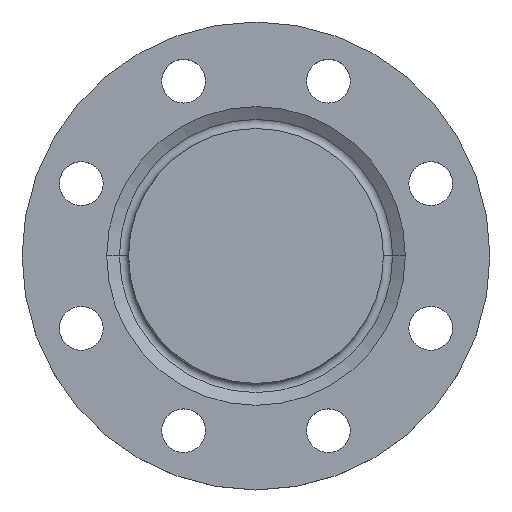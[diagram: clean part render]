
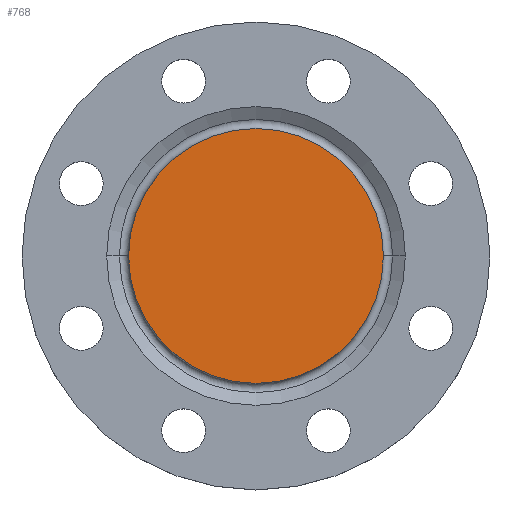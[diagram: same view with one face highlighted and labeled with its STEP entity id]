
A CAD part, top view. The second image highlights one B-rep face of the part: STEP entity #768.
In plain terms, the highlighted planar face has unit normal (0, 0, 1).
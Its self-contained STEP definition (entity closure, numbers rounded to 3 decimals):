
#141 = DIRECTION ( 'NONE',  ( -1., 0., 0. ) ) ;
#186 = EDGE_CURVE ( 'NONE', #883, #1055, #923, .T. ) ;
#283 = DIRECTION ( 'NONE',  ( 0., 0., 1. ) ) ;
#324 = AXIS2_PLACEMENT_3D ( 'NONE', #775, #1131, #338 ) ;
#338 = DIRECTION ( 'NONE',  ( -1., 0., 0. ) ) ;
#363 = FACE_OUTER_BOUND ( 'NONE', #548, .T. ) ;
#412 = AXIS2_PLACEMENT_3D ( 'NONE', #670, #938, #141 ) ;
#464 = ORIENTED_EDGE ( 'NONE', *, *, #186, .F. ) ;
#548 = EDGE_LOOP ( 'NONE', ( #464, #675 ) ) ;
#627 = DIRECTION ( 'NONE',  ( 1., 0., 0. ) ) ;
#670 = CARTESIAN_POINT ( 'NONE',  ( 0., 0., 0. ) ) ;
#675 = ORIENTED_EDGE ( 'NONE', *, *, #828, .F. ) ;
#714 = PLANE ( 'NONE',  #753 ) ;
#753 = AXIS2_PLACEMENT_3D ( 'NONE', #1072, #283, #627 ) ;
#768 = ADVANCED_FACE ( 'NONE', ( #363 ), #714, .T. ) ;
#775 = CARTESIAN_POINT ( 'NONE',  ( 0., 0., 0. ) ) ;
#801 = CARTESIAN_POINT ( 'NONE',  ( -64., 0., 0. ) ) ;
#828 = EDGE_CURVE ( 'NONE', #1055, #883, #831, .T. ) ;
#831 = CIRCLE ( 'NONE', #324, 64. ) ;
#883 = VERTEX_POINT ( 'NONE', #801 ) ;
#923 = CIRCLE ( 'NONE', #412, 64. ) ;
#938 = DIRECTION ( 'NONE',  ( 0., 0., -1. ) ) ;
#1055 = VERTEX_POINT ( 'NONE', #1058 ) ;
#1058 = CARTESIAN_POINT ( 'NONE',  ( 64., 0., 0. ) ) ;
#1072 = CARTESIAN_POINT ( 'NONE',  ( 0., 0., 0. ) ) ;
#1131 = DIRECTION ( 'NONE',  ( 0., 0., -1. ) ) ;
